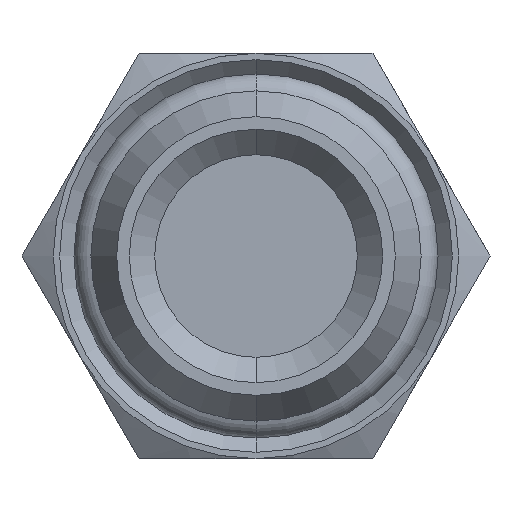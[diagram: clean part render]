
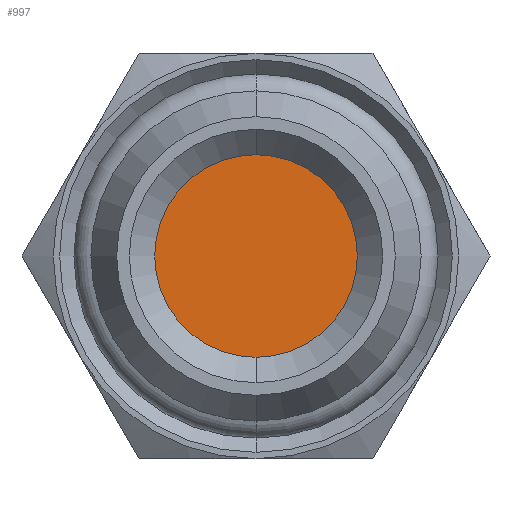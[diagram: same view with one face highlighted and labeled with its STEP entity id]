
A CAD part, front view. The second image highlights one B-rep face of the part: STEP entity #997.
In plain terms, the highlighted planar face has unit normal (0, -1, 0).
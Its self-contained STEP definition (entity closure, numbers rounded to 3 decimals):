
#146 = CARTESIAN_POINT ( 'NONE',  ( 0., 5.146, 4. ) ) ;
#523 = ORIENTED_EDGE ( 'NONE', *, *, #1613, .F. ) ;
#524 = ORIENTED_EDGE ( 'NONE', *, *, #1745, .F. ) ;
#597 = DIRECTION ( 'NONE',  ( 0., 1., 0. ) ) ;
#599 = DIRECTION ( 'NONE',  ( 0., 0., -1. ) ) ;
#600 = CARTESIAN_POINT ( 'NONE',  ( 0., 5.146, 0. ) ) ;
#607 = AXIS2_PLACEMENT_3D ( 'NONE', #1030, #1029, #1028 ) ;
#623 = AXIS2_PLACEMENT_3D ( 'NONE', #600, #597, #599 ) ;
#760 = VERTEX_POINT ( 'NONE', #2193 ) ;
#823 = EDGE_LOOP ( 'NONE', ( #524, #523 ) ) ;
#918 = CIRCLE ( 'NONE', #607, 4. ) ;
#950 = CIRCLE ( 'NONE', #623, 4. ) ;
#997 = ADVANCED_FACE ( 'NONE', ( #1377 ), #2023, .T. ) ;
#1028 = DIRECTION ( 'NONE',  ( 0., 0., -1. ) ) ;
#1029 = DIRECTION ( 'NONE',  ( 0., 1., 0. ) ) ;
#1030 = CARTESIAN_POINT ( 'NONE',  ( 0., 5.146, 0. ) ) ;
#1377 = FACE_OUTER_BOUND ( 'NONE', #823, .T. ) ;
#1613 = EDGE_CURVE ( 'NONE', #1675, #760, #918, .T. ) ;
#1649 = AXIS2_PLACEMENT_3D ( 'NONE', #1974, #1966, #1955 ) ;
#1675 = VERTEX_POINT ( 'NONE', #146 ) ;
#1745 = EDGE_CURVE ( 'NONE', #760, #1675, #950, .T. ) ;
#1955 = DIRECTION ( 'NONE',  ( 0., 0., -1. ) ) ;
#1966 = DIRECTION ( 'NONE',  ( 0., -1., 0. ) ) ;
#1974 = CARTESIAN_POINT ( 'NONE',  ( 0., 5.146, 0. ) ) ;
#2023 = PLANE ( 'NONE',  #1649 ) ;
#2193 = CARTESIAN_POINT ( 'NONE',  ( 0., 5.146, -4. ) ) ;
